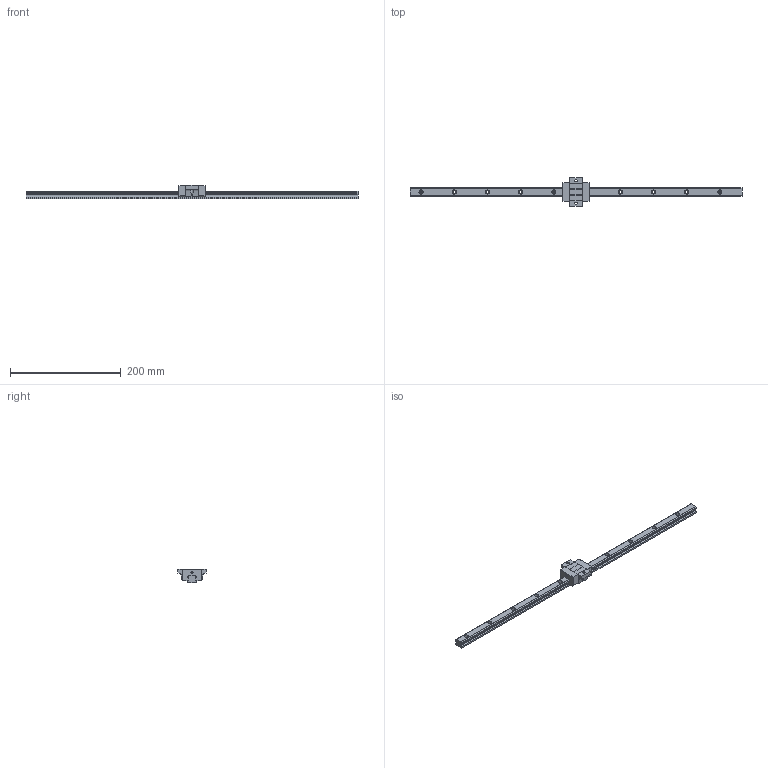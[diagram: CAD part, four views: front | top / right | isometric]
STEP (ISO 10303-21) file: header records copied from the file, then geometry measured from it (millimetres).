
FILE_DESCRIPTION (( 'STEP AP203' ), '1' );
FILE_NAME ('TRS15FS-ZN-§ï.STEP', '2023-08-31T05:59:53', ( '' ), ( '' ), 'SwSTEP 2.0', 'SolidWorks 2022', '' );
FILE_SCHEMA (( 'CONFIG_CONTROL_DESIGN' ));
Length unit declared in the file: millimetre
Products named in the file (1): TRS15FS-ZN-改
Bounding box: 600 x 52 x 24 mm (x, y, z)
Volume: 130952.8 mm3; surface area: 44096.3 mm2
Topology: 1 solids, 1 shells, 197 faces, 536 edges, 348 vertices
Faces by surface type: cylinder 100, plane 93, sphere 4
Entity records: 6544 total; most frequent: CARTESIAN_POINT 1311, DIRECTION 1106, ORIENTED_EDGE 1064, EDGE_CURVE 532, AXIS2_PLACEMENT_3D 390, VERTEX_POINT 348, LINE 326, VECTOR 326
